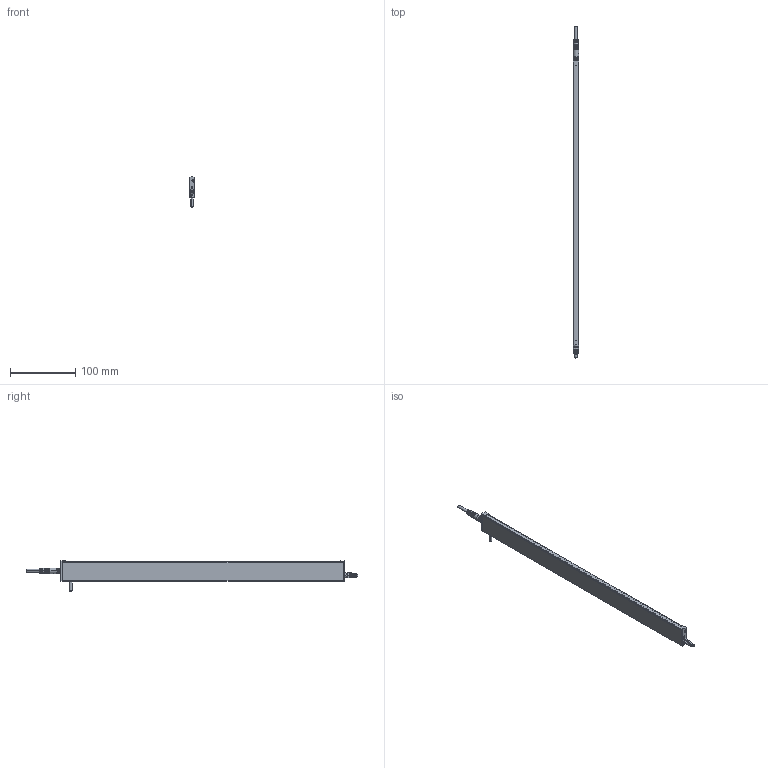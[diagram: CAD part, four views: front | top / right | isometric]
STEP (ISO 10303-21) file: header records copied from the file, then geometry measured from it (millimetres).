
FILE_DESCRIPTION (( 'STEP AP214' ), '1' );
FILE_NAME ('ILG-B-K2-0435mm.STEP', '2017-07-10T12:40:01', ( '' ), ( '' ), 'SwSTEP 2.0', 'SolidWorks 2016', '' );
FILE_SCHEMA (( 'AUTOMOTIVE_DESIGN' ));
Length unit declared in the file: millimetre
Products named in the file (1): ILG-B-K2-0435mm
Bounding box: 9 x 508.5 x 46.21 mm (x, y, z)
Surface area: 76988.8 mm2 (no closed solid volume)
Topology: 0 solids, 14 shells, 693 faces, 1806 edges, 1147 vertices
Faces by surface type: cylinder 283, plane 263, cone 97, bspline 32, torus 18
Entity records: 31061 total; most frequent: CARTESIAN_POINT 6596, ORIENTED_EDGE 3565, DIRECTION 3444, EDGE_CURVE 1790, AXIS2_PLACEMENT_3D 1323, VERTEX_POINT 1147, LINE 798, VECTOR 798
